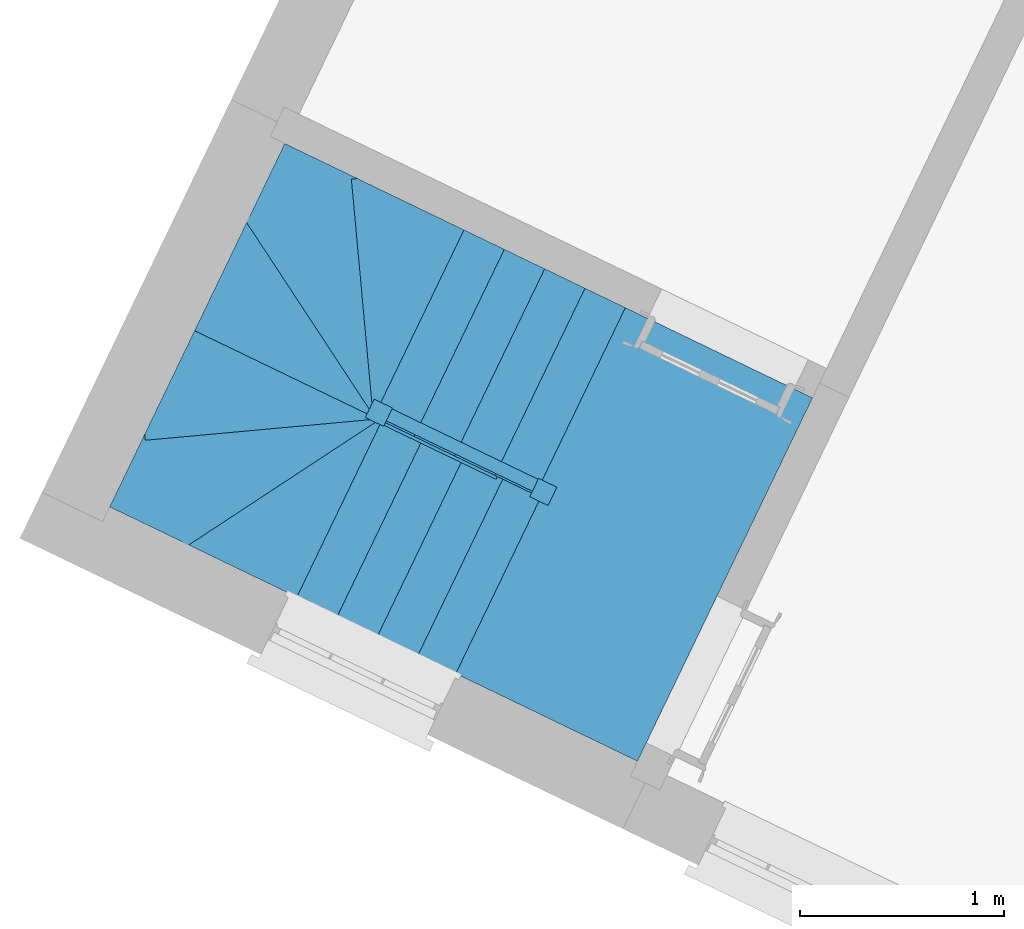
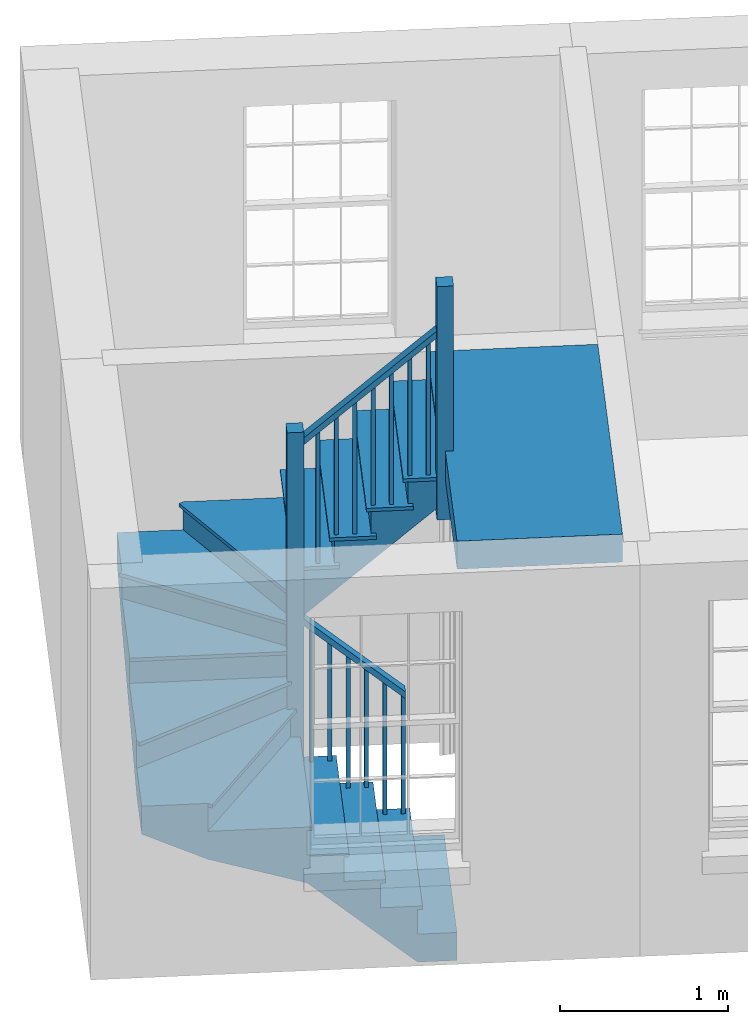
# One storey, part 3 of 3: 1 stair.
"""IFC4 building model written with IfcOpenShell, lengths in metres."""

import ifcopenshell
import ifcopenshell.guid

model = None  # the IFC model being written
_history = None  # IfcOwnerHistory: only IFC2X3 demands one
_inside = {}  # id of a spatial element -> (the spatial element, [elements in it])
_under = {}  # id of a project, library or spatial element -> (it, [spatial elements below it])
_declared = {}  # id of a project -> (the project, [libraries it declares])
_typed = {}  # id of a type object -> (the type object, [elements of that type])
_made_of = {}  # id of a material, layer set ... -> (it, [elements and type objects made of it])


def new_model(schema):
    """Start an empty IFC model of exactly this schema.

    Asked for "IFC4X3", IfcOpenShell would pick the latest addendum, in which some entities
    have other attributes; the version numbers below select the first issue.
    IFC2X3 requires an IfcOwnerHistory on every rooted entity: one is made here for all.
    """
    global model, _history
    if schema == "IFC4X3":
        model = ifcopenshell.file(schema_version=(4, 3, 0, 0))
    else:
        model = ifcopenshell.file(schema=schema)
    _inside.clear()
    _under.clear()
    _declared.clear()
    _typed.clear()
    _made_of.clear()
    _history = None
    if model.schema == "IFC2X3":
        org = make("IfcOrganization", Name="unknown")
        user = make(
            "IfcPersonAndOrganization",
            ThePerson=make("IfcPerson", FamilyName="unknown"),
            TheOrganization=org,
        )
        app = make(
            "IfcApplication",
            ApplicationDeveloper=org,
            Version="unknown",
            ApplicationFullName="unknown",
            ApplicationIdentifier="unknown",
        )
        _history = make(
            "IfcOwnerHistory",
            OwningUser=user,
            OwningApplication=app,
            ChangeAction="ADDED",
            CreationDate=0,
        )
    return model


def make(cls, **values):
    """One entity of the class cls with the attributes given. An attribute that is None is left unset."""
    return model.create_entity(
        cls, **{name: value for name, value in values.items() if value is not None}
    )


def rooted(cls, **values):
    """An entity with a GlobalId (a new one), such as an element, a storey or a relation."""
    return make(cls, GlobalId=ifcopenshell.guid.new(), OwnerHistory=_history, **values)


def si_unit(unit_type, name, prefix=None):
    """IfcSIUnit, for example si_unit("LENGTHUNIT", "METRE", prefix="MILLI")."""
    return make("IfcSIUnit", UnitType=unit_type, Prefix=prefix, Name=name)


def assignment(units):
    """IfcUnitAssignment: the units of a project."""
    return None if units is None else make("IfcUnitAssignment", Units=units)


def point(xyz):
    """IfcCartesianPoint."""
    return None if xyz is None else make("IfcCartesianPoint", Coordinates=xyz)


def direction(xyz):
    """IfcDirection."""
    return None if xyz is None else make("IfcDirection", DirectionRatios=xyz)


def frame(location, z_axis=None, x_axis=None):
    """IfcAxis2Placement3D, a coordinate frame: its origin and axes. An axis left out is left unset."""
    return make(
        "IfcAxis2Placement3D",
        Location=point(location),
        Axis=direction(z_axis),
        RefDirection=direction(x_axis),
    )


def origin():
    """The frame at (0, 0, 0) with its axes left unset."""
    return frame((0.0, 0.0, 0.0))


def origin_with_axes():
    """The frame at (0, 0, 0) with the z axis (0, 0, 1) and the x axis (1, 0, 0) written out."""
    return frame((0.0, 0.0, 0.0), z_axis=(0.0, 0.0, 1.0), x_axis=(1.0, 0.0, 0.0))


def place(relative_to, where):
    """IfcLocalPlacement: puts the frame where relative to a parent placement (None: the world)."""
    return make(
        "IfcLocalPlacement", PlacementRelTo=relative_to, RelativePlacement=where
    )


def context(
    kind, dimensions, precision=None, world=None, true_north=None, identifier=None
):
    """IfcGeometricRepresentationContext, for example the 3D "Model" context."""
    return make(
        "IfcGeometricRepresentationContext",
        ContextIdentifier=identifier,
        ContextType=kind,
        CoordinateSpaceDimension=dimensions,
        Precision=precision,
        WorldCoordinateSystem=world,
        TrueNorth=true_north,
    )


def subcontext(parent, identifier, kind, view, scale=None):
    """IfcGeometricRepresentationSubContext, for example "Body" below "Model"."""
    return make(
        "IfcGeometricRepresentationSubContext",
        ContextIdentifier=identifier,
        ContextType=kind,
        ParentContext=parent,
        TargetScale=scale,
        TargetView=view,
    )


def project(units=None, contexts=None):
    """IfcProject with its units and contexts."""
    return rooted(
        "IfcProject",
        Name="project",
        RepresentationContexts=contexts,
        UnitsInContext=assignment(units),
    )


def spatial(cls, under=None, at=None, **own):
    """A site, building, storey or space (cls), placed at a placement, below another one or the project."""
    s = rooted(cls, ObjectPlacement=at, **own)
    if under is not None:
        _under.setdefault(under.id(), (under, []))[1].append(s)
    return s


def faces_of(points, faces, orient=None, outer=None):
    """IfcFace entities. A face is a list of loops; a loop is a list of indices into points, from 0.

    orient and outer hold one flag for each loop. By default every Orientation is true, the
    first loop of a face is its IfcFaceOuterBound and the others are IfcFaceBound.
    """
    made = []
    for i, loops in enumerate(faces):
        bounds = []
        for j, loop in enumerate(loops):
            is_outer = j == 0 if outer is None else outer[i][j]
            bounds.append(
                make(
                    "IfcFaceOuterBound" if is_outer else "IfcFaceBound",
                    Bound=make("IfcPolyLoop", Polygon=[points[k] for k in loop]),
                    Orientation=True if orient is None else orient[i][j],
                )
            )
        made.append(make("IfcFace", Bounds=bounds))
    return made


def faceted_brep(points, faces, orient=None, outer=None, voids=None):
    """IfcFacetedBrep: a solid bounded by flat faces; with voids (closed shells), ...WithVoids."""
    shared = [point(p) for p in points]
    hull = make("IfcClosedShell", CfsFaces=faces_of(shared, faces, orient, outer))
    if voids is None:
        return make("IfcFacetedBrep", Outer=hull)
    return make(
        "IfcFacetedBrepWithVoids",
        Outer=hull,
        Voids=[
            make(cls, CfsFaces=faces_of(shared, fs, o, b)) for cls, fs, o, b in voids
        ],
    )


def shape(context_of_items, identifier, shape_type, items):
    """IfcShapeRepresentation: the items that make up one representation, for example the "Body"."""
    return make(
        "IfcShapeRepresentation",
        ContextOfItems=context_of_items,
        RepresentationIdentifier=identifier,
        RepresentationType=shape_type,
        Items=items,
    )


def made_of(thing, what):
    """Note that an element or type object is made of a material, layer set ...; save() writes the relation."""
    if what is not None:
        _made_of.setdefault(what.id(), (what, []))[1].append(thing)
    return thing


def element(
    cls,
    number,
    at=None,
    inside=None,
    cuts=None,
    type_object=None,
    material=None,
    context=None,
    identifier="Body",
    shape_type=None,
    held_by="IfcProductDefinitionShape",
    body=None,
    shapes=None,
    **own,
):
    """One element of the class cls, such as IfcWall. Its Tag is "e" and its number.

    at: its placement. inside: the storey or other place that contains it. cuts: it is an
    opening in that element (IfcRelVoidsElement). A single representation is given by context,
    identifier, shape_type and body (its items); several are given by shapes. held_by: the class
    of the entity that holds the representations. save() writes the other relations.
    """
    e = rooted(cls, Tag="e%d" % number, ObjectPlacement=at, **own)
    if body is not None:
        shapes = [shape(context, identifier, shape_type, body)]
    if shapes is not None:
        e.Representation = make(held_by, Representations=shapes)
    if inside is not None:
        _inside.setdefault(inside.id(), (inside, []))[1].append(e)
    if cuts is not None:
        rooted(
            "IfcRelVoidsElement", RelatingBuildingElement=cuts, RelatedOpeningElement=e
        )
    if type_object is not None:
        _typed.setdefault(type_object.id(), (type_object, []))[1].append(e)
    return made_of(e, material)


def aggregate(whole, parts):
    """IfcRelAggregates: a whole, such as a stair, and the parts it consists of."""
    return rooted("IfcRelAggregates", RelatingObject=whole, RelatedObjects=parts)


def save(model, path):
    """Write the relations noted so far, then the file.

    IfcRelAggregates (storeys below a building ...), IfcRelContainedInSpatialStructure (elements
    in a storey), IfcRelDefinesByType, IfcRelAssociatesMaterial and IfcRelDeclares: one each for
    every whole, place, type object, material and project.
    """
    for whole, parts in _under.values():
        aggregate(whole, parts)
    for where, things in _inside.values():
        rooted(
            "IfcRelContainedInSpatialStructure",
            RelatedElements=things,
            RelatingStructure=where,
        )
    for kind, things in _typed.values():
        rooted("IfcRelDefinesByType", RelatedObjects=things, RelatingType=kind)
    for what, things in _made_of.values():
        rooted("IfcRelAssociatesMaterial", RelatedObjects=things, RelatingMaterial=what)
    for by, libraries in _declared.values():
        rooted("IfcRelDeclares", RelatingContext=by, RelatedDefinitions=libraries)
    model.write(path)


model = new_model("IFC4")

# Units and contexts
model_context = context("Model", 3, world=origin_with_axes())
body_context = subcontext(model_context, "Body", "Model", "MODEL_VIEW")
ifc_project = project(units=[si_unit("PLANEANGLEUNIT", "RADIAN"), si_unit("MASSUNIT", "GRAM", prefix="KILO"), si_unit("FORCEUNIT", "NEWTON", prefix="KILO"), si_unit("LENGTHUNIT", "METRE"), si_unit("AREAUNIT", "SQUARE_METRE"), si_unit("VOLUMEUNIT", "CUBIC_METRE")], contexts=[model_context, model_context])

# Sites, building, storey
site_1_placement = place(None, origin_with_axes())
site_1 = spatial("IfcSite", under=ifc_project, at=site_1_placement, Name="Tamar")
site_2_placement = place(site_1_placement, origin_with_axes())
site_2 = spatial("IfcSite", under=site_1, at=site_2_placement, Name="Site plot-2", CompositionType="ELEMENT")
building_placement = place(None, origin_with_axes())
building = spatial("IfcBuilding", under=site_2, at=building_placement, Name="Building plot-2", CompositionType="ELEMENT")
storey_placement = place(None, frame((0.0, 0.0, 28.7), z_axis=(0.0, 0.0, 1.0), x_axis=(1.0, 0.0, 0.0)))
storey = spatial("IfcBuildingStorey", under=building, at=storey_placement, Name="plot-2 1", CompositionType="ELEMENT", Elevation=28.7)

# Stair
stair_placement = place(None, origin())
element("IfcStair", 1, at=stair_placement, inside=storey, Name="Stair", PredefinedType="NOTDEFINED", context=body_context, shape_type="Brep", body=[
    faceted_brep([(229.954053, 291.419393, 31.346429), (230.38407, 292.311741, 31.346429), (230.185881, 292.407247, 31.346429), (229.755864, 291.514899, 31.346429), (229.755864, 291.514899, 30.939286), (230.185881, 292.407247, 30.939286), (230.38407, 292.311741, 31.142857), (229.954053, 291.419393, 31.142857)], [[[0, 1, 2, 3]], [[4, 5, 6, 7]], [[7, 6, 1, 0]], [[1, 6, 5, 2]], [[5, 4, 3, 2]], [[3, 4, 7, 0]]]),
    faceted_brep([(230.185881, 292.407247, 31.321429), (230.158856, 292.420271, 31.321429), (230.185881, 292.407247, 31.346429), (230.411095, 292.298718, 31.321429), (230.38407, 292.311741, 31.321429), (230.38407, 292.311741, 31.346429), (230.158856, 292.420271, 31.346429), (230.411095, 292.298718, 31.346429), (229.715815, 291.500897, 31.346429), (229.755864, 291.514899, 31.346429), (229.755864, 291.514899, 31.321429), (229.715815, 291.500897, 31.321429), (229.968055, 291.379344, 31.346429), (229.954053, 291.419393, 31.346429), (229.954053, 291.419393, 31.321429), (229.968055, 291.379344, 31.321429)], [[[0, 1, 2]], [[3, 4, 5]], [[1, 6, 2]], [[7, 3, 5]], [[2, 6, 8, 9]], [[0, 2, 9, 10]], [[1, 0, 10, 11]], [[6, 1, 11, 8]], [[9, 8, 12, 13]], [[10, 9, 13, 14]], [[11, 10, 14, 15]], [[8, 11, 15, 12]], [[13, 12, 7, 5]], [[14, 13, 5, 4]], [[15, 14, 4, 3]], [[12, 15, 3, 7]]]),
    faceted_brep([(229.755864, 291.514899, 32.246429), (229.778386, 291.504046, 32.246429), (229.789239, 291.526568, 32.246429), (229.766717, 291.537421, 32.246429), (229.766717, 291.537421, 31.346429), (229.789239, 291.526568, 31.346429), (229.778386, 291.504046, 31.346429), (229.755864, 291.514899, 31.346429)], [[[0, 1, 2, 3]], [[4, 5, 6, 7]], [[7, 6, 1, 0]], [[6, 5, 2, 1]], [[5, 4, 3, 2]], [[4, 7, 0, 3]]]),
    faceted_brep([(229.854958, 291.467146, 32.348214), (229.87748, 291.456293, 32.348214), (229.888333, 291.478815, 32.348214), (229.865811, 291.489668, 32.348214), (229.865811, 291.489668, 31.346429), (229.888333, 291.478815, 31.346429), (229.87748, 291.456293, 31.346429), (229.854958, 291.467146, 31.346429)], [[[0, 1, 2, 3]], [[4, 5, 6, 7]], [[7, 6, 1, 0]], [[6, 5, 2, 1]], [[5, 4, 3, 2]], [[4, 7, 0, 3]]]),
    faceted_brep([(229.7754, 291.555438, 32.196429), (229.747182, 291.496882, 32.196429), (229.747182, 291.496882, 32.246429), (229.7754, 291.555438, 32.246429), (229.94537, 291.401376, 32.4), (229.973588, 291.459932, 32.4), (229.973588, 291.459932, 32.45), (229.94537, 291.401376, 32.45)], [[[0, 1, 2, 3]], [[4, 5, 6, 7]], [[0, 5, 4, 1]], [[3, 2, 7, 6]], [[0, 3, 6, 5]], [[2, 1, 4, 7]]]),
    faceted_brep([(229.755864, 291.514899, 31.142857), (230.185881, 292.407247, 31.142857), (229.987693, 292.502753, 31.142857), (229.557676, 291.610405, 31.142857), (229.557676, 291.610405, 30.735714), (229.987693, 292.502753, 30.735714), (230.185881, 292.407247, 30.939286), (229.755864, 291.514899, 30.939286)], [[[0, 1, 2, 3]], [[4, 5, 6, 7]], [[7, 6, 1, 0]], [[1, 6, 5, 2]], [[5, 4, 3, 2]], [[3, 4, 7, 0]]]),
    faceted_brep([(229.960667, 292.515776, 31.117857), (229.960667, 292.515776, 31.142857), (229.987693, 292.502753, 31.117857), (230.212907, 292.394224, 31.142857), (230.212907, 292.394224, 31.117857), (230.185881, 292.407247, 31.117857), (229.987693, 292.502753, 31.142857), (230.185881, 292.407247, 31.142857), (229.517627, 291.596403, 31.142857), (229.557676, 291.610405, 31.142857), (229.557676, 291.610405, 31.117857), (229.517627, 291.596403, 31.117857), (229.769866, 291.47485, 31.142857), (229.755864, 291.514899, 31.142857), (229.755864, 291.514899, 31.117857), (229.769866, 291.47485, 31.117857)], [[[0, 1, 2]], [[3, 4, 5]], [[2, 1, 6]], [[3, 5, 7]], [[6, 1, 8, 9]], [[2, 6, 9, 10]], [[0, 2, 10, 11]], [[1, 0, 11, 8]], [[9, 8, 12, 13]], [[10, 9, 13, 14]], [[11, 10, 14, 15]], [[8, 11, 15, 12]], [[13, 12, 3, 7]], [[14, 13, 7, 5]], [[15, 14, 5, 4]], [[12, 15, 4, 3]]]),
    faceted_brep([(229.557676, 291.610405, 32.042857), (229.580197, 291.599552, 32.042857), (229.59105, 291.622074, 32.042857), (229.568529, 291.632927, 32.042857), (229.568529, 291.632927, 31.142857), (229.59105, 291.622074, 31.142857), (229.580197, 291.599552, 31.142857), (229.557676, 291.610405, 31.142857)], [[[0, 1, 2, 3]], [[4, 5, 6, 7]], [[7, 6, 1, 0]], [[6, 5, 2, 1]], [[5, 4, 3, 2]], [[4, 7, 0, 3]]]),
    faceted_brep([(229.65677, 291.562652, 32.144643), (229.679291, 291.551799, 32.144643), (229.690144, 291.574321, 32.144643), (229.667623, 291.585174, 32.144643), (229.667623, 291.585174, 31.142857), (229.690144, 291.574321, 31.142857), (229.679291, 291.551799, 31.142857), (229.65677, 291.562652, 31.142857)], [[[0, 1, 2, 3]], [[4, 5, 6, 7]], [[7, 6, 1, 0]], [[6, 5, 2, 1]], [[5, 4, 3, 2]], [[4, 7, 0, 3]]]),
    faceted_brep([(229.577211, 291.650944, 31.992857), (229.548993, 291.592388, 31.992857), (229.548993, 291.592388, 32.042857), (229.577211, 291.650944, 32.042857), (229.747182, 291.496882, 32.196429), (229.7754, 291.555438, 32.196429), (229.7754, 291.555438, 32.246429), (229.747182, 291.496882, 32.246429)], [[[0, 1, 2, 3]], [[4, 5, 6, 7]], [[0, 5, 4, 1]], [[3, 2, 7, 6]], [[0, 3, 6, 5]], [[2, 1, 4, 7]]]),
    faceted_brep([(229.557676, 291.610405, 30.939286), (229.987693, 292.502753, 30.939286), (229.789505, 292.598259, 30.939286), (229.359487, 291.705911, 30.939286), (229.359487, 291.705911, 30.532143), (229.789505, 292.598259, 30.532143), (229.987693, 292.502753, 30.735714), (229.557676, 291.610405, 30.735714)], [[[0, 1, 2, 3]], [[4, 5, 6, 7]], [[7, 6, 1, 0]], [[1, 6, 5, 2]], [[5, 4, 3, 2]], [[3, 4, 7, 0]]]),
    faceted_brep([(229.762479, 292.611282, 30.914286), (229.762479, 292.611282, 30.939286), (229.789505, 292.598259, 30.914286), (230.014719, 292.489729, 30.939286), (230.014719, 292.489729, 30.914286), (229.987693, 292.502753, 30.914286), (229.789505, 292.598259, 30.939286), (229.987693, 292.502753, 30.939286), (229.319438, 291.691909, 30.939286), (229.359487, 291.705911, 30.939286), (229.359487, 291.705911, 30.914286), (229.319438, 291.691909, 30.914286), (229.571678, 291.570356, 30.939286), (229.557676, 291.610405, 30.939286), (229.557676, 291.610405, 30.914286), (229.571678, 291.570356, 30.914286)], [[[0, 1, 2]], [[3, 4, 5]], [[2, 1, 6]], [[3, 5, 7]], [[6, 1, 8, 9]], [[2, 6, 9, 10]], [[0, 2, 10, 11]], [[1, 0, 11, 8]], [[9, 8, 12, 13]], [[10, 9, 13, 14]], [[11, 10, 14, 15]], [[8, 11, 15, 12]], [[13, 12, 3, 7]], [[14, 13, 7, 5]], [[15, 14, 5, 4]], [[12, 15, 4, 3]]]),
    faceted_brep([(229.359487, 291.705911, 31.839286), (229.382009, 291.695058, 31.839286), (229.392862, 291.717579, 31.839286), (229.37034, 291.728432, 31.839286), (229.37034, 291.728432, 30.939286), (229.392862, 291.717579, 30.939286), (229.382009, 291.695058, 30.939286), (229.359487, 291.705911, 30.939286)], [[[0, 1, 2, 3]], [[4, 5, 6, 7]], [[7, 6, 1, 0]], [[6, 5, 2, 1]], [[5, 4, 3, 2]], [[4, 7, 0, 3]]]),
    faceted_brep([(229.458582, 291.658158, 31.941071), (229.481103, 291.647305, 31.941071), (229.491956, 291.669827, 31.941071), (229.469435, 291.680679, 31.941071), (229.469435, 291.680679, 30.939286), (229.491956, 291.669827, 30.939286), (229.481103, 291.647305, 30.939286), (229.458582, 291.658158, 30.939286)], [[[0, 1, 2, 3]], [[4, 5, 6, 7]], [[7, 6, 1, 0]], [[6, 5, 2, 1]], [[5, 4, 3, 2]], [[4, 7, 0, 3]]]),
    faceted_brep([(229.379023, 291.746449, 31.789286), (229.350805, 291.687894, 31.789286), (229.350805, 291.687894, 31.839286), (229.379023, 291.746449, 31.839286), (229.548993, 291.592388, 31.992857), (229.577211, 291.650944, 31.992857), (229.577211, 291.650944, 32.042857), (229.548993, 291.592388, 32.042857)], [[[0, 1, 2, 3]], [[4, 5, 6, 7]], [[0, 5, 4, 1]], [[3, 2, 7, 6]], [[0, 3, 6, 5]], [[2, 1, 4, 7]]]),
    faceted_brep([(229.359487, 291.705911, 30.735714), (229.789505, 292.598259, 30.735714), (229.591316, 292.693765, 30.735714), (229.161299, 291.801417, 30.735714), (229.161299, 291.801417, 30.328571), (229.591316, 292.693765, 30.328571), (229.789505, 292.598259, 30.532143), (229.359487, 291.705911, 30.532143)], [[[0, 1, 2, 3]], [[4, 5, 6, 7]], [[7, 6, 1, 0]], [[1, 6, 5, 2]], [[5, 4, 3, 2]], [[3, 4, 7, 0]]]),
    faceted_brep([(229.564291, 292.706788, 30.710714), (229.564291, 292.706788, 30.735714), (229.591316, 292.693765, 30.710714), (229.81653, 292.585235, 30.735714), (229.81653, 292.585235, 30.710714), (229.789505, 292.598259, 30.710714), (229.591316, 292.693765, 30.735714), (229.789505, 292.598259, 30.735714), (229.12125, 291.787415, 30.735714), (229.161299, 291.801417, 30.735714), (229.161299, 291.801417, 30.710714), (229.12125, 291.787415, 30.710714), (229.37349, 291.665862, 30.735714), (229.359487, 291.705911, 30.735714), (229.359487, 291.705911, 30.710714), (229.37349, 291.665862, 30.710714)], [[[0, 1, 2]], [[3, 4, 5]], [[2, 1, 6]], [[3, 5, 7]], [[6, 1, 8, 9]], [[2, 6, 9, 10]], [[0, 2, 10, 11]], [[1, 0, 11, 8]], [[9, 8, 12, 13]], [[10, 9, 13, 14]], [[11, 10, 14, 15]], [[8, 11, 15, 12]], [[13, 12, 3, 7]], [[14, 13, 7, 5]], [[15, 14, 5, 4]], [[12, 15, 4, 3]]]),
    faceted_brep([(229.161299, 291.801417, 31.635714), (229.18382, 291.790564, 31.635714), (229.194673, 291.813085, 31.635714), (229.172152, 291.823938, 31.635714), (229.172152, 291.823938, 30.735714), (229.194673, 291.813085, 30.735714), (229.18382, 291.790564, 30.735714), (229.161299, 291.801417, 30.735714)], [[[0, 1, 2, 3]], [[4, 5, 6, 7]], [[7, 6, 1, 0]], [[6, 5, 2, 1]], [[5, 4, 3, 2]], [[4, 7, 0, 3]]]),
    faceted_brep([(229.260393, 291.753664, 31.7375), (229.282915, 291.742811, 31.7375), (229.293768, 291.765332, 31.7375), (229.271246, 291.776185, 31.7375), (229.271246, 291.776185, 30.735714), (229.293768, 291.765332, 30.735714), (229.282915, 291.742811, 30.735714), (229.260393, 291.753664, 30.735714)], [[[0, 1, 2, 3]], [[4, 5, 6, 7]], [[7, 6, 1, 0]], [[6, 5, 2, 1]], [[5, 4, 3, 2]], [[4, 7, 0, 3]]]),
    faceted_brep([(229.180834, 291.841955, 31.585714), (229.152617, 291.7834, 31.585714), (229.152617, 291.7834, 31.635714), (229.180834, 291.841955, 31.635714), (229.350805, 291.687894, 31.789286), (229.379023, 291.746449, 31.789286), (229.379023, 291.746449, 31.839286), (229.350805, 291.687894, 31.839286)], [[[0, 1, 2, 3]], [[4, 5, 6, 7]], [[0, 5, 4, 1]], [[3, 2, 7, 6]], [[0, 3, 6, 5]], [[2, 1, 4, 7]]]),
    faceted_brep([(229.161299, 291.801417, 30.532143), (229.591316, 292.693765, 30.532143), (229.576412, 292.700947, 30.532143), (229.146395, 291.808599, 30.532143), (229.146395, 291.808599, 30.328571), (229.576412, 292.700947, 30.328571), (229.591316, 292.693765, 30.328571), (229.161299, 291.801417, 30.328571)], [[[0, 1, 2, 3]], [[4, 5, 6, 7]], [[7, 6, 1, 0]], [[6, 5, 2, 1]], [[5, 4, 3, 2]], [[4, 7, 0, 3]]]),
    faceted_brep([(229.133372, 291.781573, 30.507143), (229.133372, 291.781573, 30.532143), (229.146395, 291.808599, 30.507143), (229.148276, 291.774391, 30.532143), (229.148276, 291.774391, 30.507143), (229.161299, 291.801417, 30.507143), (229.146395, 291.808599, 30.532143), (229.161299, 291.801417, 30.532143)], [[[0, 1, 2]], [[3, 4, 5]], [[2, 1, 6]], [[3, 5, 7]], [[6, 1, 3, 7]], [[2, 6, 7, 5]], [[0, 2, 5, 4]], [[1, 0, 4, 3]]]),
    faceted_brep([(229.079646, 291.785262, 31.732143), (229.169732, 291.74185, 31.732143), (229.213144, 291.831936, 31.732143), (229.123058, 291.875348, 31.732143), (229.123058, 291.875348, 30.532143), (229.213144, 291.831936, 30.532143), (229.169732, 291.74185, 30.532143), (229.079646, 291.785262, 30.532143)], [[[0, 1, 2, 3]], [[4, 5, 6, 7]], [[7, 6, 1, 0]], [[6, 5, 2, 1]], [[5, 4, 3, 2]], [[4, 7, 0, 3]]]),
    faceted_brep([(229.576412, 292.700947, 30.532143), (229.041004, 292.958957, 30.532143), (229.146395, 291.808599, 30.532143), (229.146395, 291.808599, 30.125), (229.041004, 292.958957, 30.125), (229.576412, 292.700947, 30.328571)], [[[0, 1, 2]], [[3, 4, 5]], [[0, 5, 4, 1]], [[4, 3, 2, 1]], [[2, 3, 5, 0]]]),
    faceted_brep([(229.041004, 292.958957, 30.507143), (229.011129, 292.95622, 30.507143), (229.041004, 292.958957, 30.532143), (229.11652, 291.805862, 30.507143), (229.146395, 291.808599, 30.507143), (229.146395, 291.808599, 30.532143), (229.011129, 292.95622, 30.532143), (229.11652, 291.805862, 30.532143)], [[[0, 1, 2]], [[3, 4, 5]], [[1, 6, 2]], [[7, 3, 5]], [[2, 6, 7, 5]], [[0, 2, 5, 4]], [[1, 0, 4, 3]], [[6, 1, 3, 7]]]),
    faceted_brep([(229.041004, 292.958957, 30.328571), (228.684064, 293.130964, 30.328571), (228.512058, 292.774025, 30.328571), (229.146395, 291.808599, 30.328571), (229.146395, 291.808599, 29.921429), (228.512058, 292.774025, 29.921429), (228.684064, 293.130964, 30.125), (229.041004, 292.958957, 30.125)], [[[0, 1, 2, 3]], [[4, 5, 6, 7]], [[7, 6, 1, 0]], [[1, 6, 5, 2]], [[5, 4, 3, 2]], [[3, 4, 7, 0]]]),
    faceted_brep([(228.486985, 292.757551, 30.303571), (228.486985, 292.757551, 30.328571), (228.512058, 292.774025, 30.303571), (229.121323, 291.792125, 30.328571), (229.121323, 291.792125, 30.303571), (229.146395, 291.808599, 30.303571), (228.512058, 292.774025, 30.328571), (229.146395, 291.808599, 30.328571)], [[[0, 1, 2]], [[3, 4, 5]], [[2, 1, 6]], [[3, 5, 7]], [[6, 1, 3, 7]], [[2, 6, 7, 5]], [[0, 2, 5, 4]], [[1, 0, 4, 3]]]),
    faceted_brep([(228.512058, 292.774025, 30.125), (228.254047, 292.238616, 30.125), (229.146395, 291.808599, 30.125), (229.146395, 291.808599, 29.717857), (228.254047, 292.238616, 29.717857), (228.512058, 292.774025, 29.921429)], [[[0, 1, 2]], [[3, 4, 5]], [[0, 5, 4, 1]], [[4, 3, 2, 1]], [[2, 3, 5, 0]]]),
    faceted_brep([(228.241024, 292.21159, 30.1), (228.241024, 292.21159, 30.125), (228.254047, 292.238616, 30.1), (229.133372, 291.781573, 30.125), (229.133372, 291.781573, 30.1), (229.146395, 291.808599, 30.1), (228.254047, 292.238616, 30.125), (229.146395, 291.808599, 30.125)], [[[0, 1, 2]], [[3, 4, 5]], [[2, 1, 6]], [[3, 5, 7]], [[6, 1, 3, 7]], [[2, 6, 7, 5]], [[0, 2, 5, 4]], [[1, 0, 4, 3]]]),
    faceted_brep([(229.079646, 291.785262, 30.532143), (229.169732, 291.74185, 30.532143), (229.213144, 291.831936, 30.532143), (229.123058, 291.875348, 30.532143), (229.123058, 291.875348, 29.625), (229.213144, 291.831936, 29.625), (229.169732, 291.74185, 29.625), (229.079646, 291.785262, 29.625)], [[[0, 1, 2, 3]], [[4, 5, 6, 7]], [[7, 6, 1, 0]], [[6, 5, 2, 1]], [[5, 4, 3, 2]], [[4, 7, 0, 3]]]),
    faceted_brep([(229.146395, 291.808599, 29.717857), (228.254047, 292.238616, 29.717857), (228.254047, 292.238616, 29.921429), (229.146395, 291.808599, 29.921429)], [[[0, 1, 2, 3]], [[1, 0, 3, 2]]]),
    faceted_brep([(229.146395, 291.808599, 29.896429), (229.176395, 291.808599, 29.896429), (229.146395, 291.808599, 29.921429), (229.176395, 291.808599, 29.921429)], [[[0, 1, 2]], [[1, 0, 2]], [[1, 3, 2]], [[3, 1, 2]]]),
    faceted_brep([(229.169732, 291.74185, 31.121429), (229.213144, 291.831936, 31.121429), (229.123058, 291.875348, 31.121429), (229.079646, 291.785262, 31.121429), (229.079646, 291.785262, 29.921429), (229.123058, 291.875348, 29.921429), (229.213144, 291.831936, 29.921429), (229.169732, 291.74185, 29.921429)], [[[0, 1, 2, 3]], [[4, 5, 6, 7]], [[7, 6, 1, 0]], [[6, 5, 2, 1]], [[5, 4, 3, 2]], [[4, 7, 0, 3]]]),
    faceted_brep([(228.254047, 292.238616, 29.921429), (227.996037, 291.703207, 29.921429), (229.146395, 291.808599, 29.921429), (229.146395, 291.808599, 29.514286), (227.996037, 291.703207, 29.514286), (228.254047, 292.238616, 29.717857)], [[[0, 1, 2]], [[3, 4, 5]], [[0, 5, 4, 1]], [[4, 3, 2, 1]], [[2, 3, 5, 0]]]),
    faceted_brep([(227.996037, 291.703207, 29.896429), (227.998774, 291.673333, 29.896429), (227.996037, 291.703207, 29.921429), (229.149132, 291.778724, 29.896429), (229.146395, 291.808599, 29.896429), (229.146395, 291.808599, 29.921429), (227.998774, 291.673333, 29.921429), (229.149132, 291.778724, 29.921429)], [[[0, 1, 2]], [[3, 4, 5]], [[1, 6, 2]], [[7, 3, 5]], [[2, 6, 7, 5]], [[0, 2, 5, 4]], [[1, 0, 4, 3]], [[6, 1, 3, 7]]]),
    faceted_brep([(227.996037, 291.703207, 29.717857), (227.82403, 291.346268, 29.717857), (228.180969, 291.174261, 29.717857), (229.146395, 291.808599, 29.717857), (229.146395, 291.808599, 29.310714), (228.180969, 291.174261, 29.310714), (227.82403, 291.346268, 29.514286), (227.996037, 291.703207, 29.514286)], [[[0, 1, 2, 3]], [[4, 5, 6, 7]], [[7, 6, 1, 0]], [[1, 6, 5, 2]], [[5, 4, 3, 2]], [[3, 4, 7, 0]]]),
    faceted_brep([(228.180969, 291.174261, 29.692857), (228.197443, 291.149189, 29.692857), (228.180969, 291.174261, 29.717857), (229.162869, 291.783527, 29.692857), (229.146395, 291.808599, 29.692857), (229.146395, 291.808599, 29.717857), (228.197443, 291.149189, 29.717857), (229.162869, 291.783527, 29.717857)], [[[0, 1, 2]], [[3, 4, 5]], [[1, 6, 2]], [[7, 3, 5]], [[2, 6, 7, 5]], [[0, 2, 5, 4]], [[1, 0, 4, 3]], [[6, 1, 3, 7]]]),
    faceted_brep([(228.180969, 291.174261, 29.514286), (228.716378, 290.916251, 29.514286), (229.146395, 291.808599, 29.514286), (229.146395, 291.808599, 29.107143), (228.716378, 290.916251, 29.107143), (228.180969, 291.174261, 29.310714)], [[[0, 1, 2]], [[3, 4, 5]], [[0, 5, 4, 1]], [[4, 3, 2, 1]], [[2, 3, 5, 0]]]),
    faceted_brep([(228.743404, 290.903228, 29.489286), (228.743404, 290.903228, 29.514286), (228.716378, 290.916251, 29.489286), (229.173421, 291.795575, 29.514286), (229.173421, 291.795575, 29.489286), (229.146395, 291.808599, 29.489286), (228.716378, 290.916251, 29.514286), (229.146395, 291.808599, 29.514286)], [[[0, 1, 2]], [[3, 4, 5]], [[2, 1, 6]], [[3, 5, 7]], [[6, 1, 3, 7]], [[2, 6, 7, 5]], [[0, 2, 5, 4]], [[1, 0, 4, 3]]]),
    faceted_brep([(229.169732, 291.74185, 29.921429), (229.213144, 291.831936, 29.921429), (229.123058, 291.875348, 29.921429), (229.079646, 291.785262, 29.921429), (229.079646, 291.785262, 29.014286), (229.123058, 291.875348, 29.014286), (229.213144, 291.831936, 29.014286), (229.169732, 291.74185, 29.014286)], [[[0, 1, 2, 3]], [[4, 5, 6, 7]], [[7, 6, 1, 0]], [[6, 5, 2, 1]], [[5, 4, 3, 2]], [[4, 7, 0, 3]]]),
    faceted_brep([(229.146395, 291.808599, 29.310714), (228.716378, 290.916251, 29.310714), (228.914566, 290.820745, 29.310714), (229.344583, 291.713093, 29.310714), (229.344583, 291.713093, 28.903571), (228.914566, 290.820745, 28.903571), (228.716378, 290.916251, 29.107143), (229.146395, 291.808599, 29.107143)], [[[0, 1, 2, 3]], [[4, 5, 6, 7]], [[7, 6, 1, 0]], [[1, 6, 5, 2]], [[5, 4, 3, 2]], [[3, 4, 7, 0]]]),
    faceted_brep([(228.941592, 290.807722, 29.285714), (228.941592, 290.807722, 29.310714), (228.914566, 290.820745, 29.285714), (228.689352, 290.929275, 29.310714), (228.689352, 290.929275, 29.285714), (228.716378, 290.916251, 29.285714), (228.914566, 290.820745, 29.310714), (228.716378, 290.916251, 29.310714), (229.384633, 291.727095, 29.310714), (229.344583, 291.713093, 29.310714), (229.344583, 291.713093, 29.285714), (229.384633, 291.727095, 29.285714), (229.132393, 291.848648, 29.310714), (229.146395, 291.808599, 29.310714), (229.146395, 291.808599, 29.285714), (229.132393, 291.848648, 29.285714)], [[[0, 1, 2]], [[3, 4, 5]], [[2, 1, 6]], [[3, 5, 7]], [[6, 1, 8, 9]], [[2, 6, 9, 10]], [[0, 2, 10, 11]], [[1, 0, 11, 8]], [[9, 8, 12, 13]], [[10, 9, 13, 14]], [[11, 10, 14, 15]], [[8, 11, 15, 12]], [[13, 12, 3, 7]], [[14, 13, 7, 5]], [[15, 14, 5, 4]], [[12, 15, 4, 3]]]),
    faceted_brep([(229.344583, 291.713093, 30.210714), (229.322062, 291.723946, 30.210714), (229.311209, 291.701425, 30.210714), (229.333731, 291.690572, 30.210714), (229.333731, 291.690572, 29.310714), (229.311209, 291.701425, 29.310714), (229.322062, 291.723946, 29.310714), (229.344583, 291.713093, 29.310714)], [[[0, 1, 2, 3]], [[4, 5, 6, 7]], [[7, 6, 1, 0]], [[6, 5, 2, 1]], [[5, 4, 3, 2]], [[4, 7, 0, 3]]]),
    faceted_brep([(229.245489, 291.760846, 30.3125), (229.222968, 291.771699, 30.3125), (229.212115, 291.749178, 30.3125), (229.234636, 291.738325, 30.3125), (229.234636, 291.738325, 29.310714), (229.212115, 291.749178, 29.310714), (229.222968, 291.771699, 29.310714), (229.245489, 291.760846, 29.310714)], [[[0, 1, 2, 3]], [[4, 5, 6, 7]], [[7, 6, 1, 0]], [[6, 5, 2, 1]], [[5, 4, 3, 2]], [[4, 7, 0, 3]]]),
    faceted_brep([(229.325048, 291.672555, 30.160714), (229.353266, 291.73111, 30.160714), (229.353266, 291.73111, 30.210714), (229.325048, 291.672555, 30.210714), (229.155077, 291.826616, 30.364286), (229.12686, 291.76806, 30.364286), (229.12686, 291.76806, 30.414286), (229.155077, 291.826616, 30.414286)], [[[0, 1, 2, 3]], [[4, 5, 6, 7]], [[0, 5, 4, 1]], [[3, 2, 7, 6]], [[0, 3, 6, 5]], [[2, 1, 4, 7]]]),
    faceted_brep([(229.344583, 291.713093, 29.107143), (228.914566, 290.820745, 29.107143), (229.112755, 290.72524, 29.107143), (229.542772, 291.617587, 29.107143), (229.542772, 291.617587, 28.7), (229.112755, 290.72524, 28.7), (228.914566, 290.820745, 28.903571), (229.344583, 291.713093, 28.903571)], [[[0, 1, 2, 3]], [[4, 5, 6, 7]], [[7, 6, 1, 0]], [[1, 6, 5, 2]], [[5, 4, 3, 2]], [[3, 4, 7, 0]]]),
    faceted_brep([(229.13978, 290.712216, 29.082143), (229.13978, 290.712216, 29.107143), (229.112755, 290.72524, 29.082143), (228.887541, 290.833769, 29.107143), (228.887541, 290.833769, 29.082143), (228.914566, 290.820745, 29.082143), (229.112755, 290.72524, 29.107143), (228.914566, 290.820745, 29.107143), (229.582821, 291.631589, 29.107143), (229.542772, 291.617587, 29.107143), (229.542772, 291.617587, 29.082143), (229.582821, 291.631589, 29.082143), (229.330581, 291.753142, 29.107143), (229.344583, 291.713093, 29.107143), (229.344583, 291.713093, 29.082143), (229.330581, 291.753142, 29.082143)], [[[0, 1, 2]], [[3, 4, 5]], [[2, 1, 6]], [[3, 5, 7]], [[6, 1, 8, 9]], [[2, 6, 9, 10]], [[0, 2, 10, 11]], [[1, 0, 11, 8]], [[9, 8, 12, 13]], [[10, 9, 13, 14]], [[11, 10, 14, 15]], [[8, 11, 15, 12]], [[13, 12, 3, 7]], [[14, 13, 7, 5]], [[15, 14, 5, 4]], [[12, 15, 4, 3]]]),
    faceted_brep([(229.542772, 291.617587, 30.007143), (229.52025, 291.62844, 30.007143), (229.509398, 291.605919, 30.007143), (229.531919, 291.595066, 30.007143), (229.531919, 291.595066, 29.107143), (229.509398, 291.605919, 29.107143), (229.52025, 291.62844, 29.107143), (229.542772, 291.617587, 29.107143)], [[[0, 1, 2, 3]], [[4, 5, 6, 7]], [[7, 6, 1, 0]], [[6, 5, 2, 1]], [[5, 4, 3, 2]], [[4, 7, 0, 3]]]),
    faceted_brep([(229.443678, 291.66534, 30.108929), (229.421156, 291.676193, 30.108929), (229.410303, 291.653672, 30.108929), (229.432825, 291.642819, 30.108929), (229.432825, 291.642819, 29.107143), (229.410303, 291.653672, 29.107143), (229.421156, 291.676193, 29.107143), (229.443678, 291.66534, 29.107143)], [[[0, 1, 2, 3]], [[4, 5, 6, 7]], [[7, 6, 1, 0]], [[6, 5, 2, 1]], [[5, 4, 3, 2]], [[4, 7, 0, 3]]]),
    faceted_brep([(229.523237, 291.577049, 29.957143), (229.551454, 291.635604, 29.957143), (229.551454, 291.635604, 30.007143), (229.523237, 291.577049, 30.007143), (229.353266, 291.73111, 30.160714), (229.325048, 291.672555, 30.160714), (229.325048, 291.672555, 30.210714), (229.353266, 291.73111, 30.210714)], [[[0, 1, 2, 3]], [[4, 5, 6, 7]], [[0, 5, 4, 1]], [[3, 2, 7, 6]], [[0, 3, 6, 5]], [[2, 1, 4, 7]]]),
    faceted_brep([(229.542772, 291.617587, 28.903571), (229.112755, 290.72524, 28.903571), (229.310943, 290.629734, 28.903571), (229.74096, 291.522081, 28.903571), (229.74096, 291.522081, 28.496429), (229.310943, 290.629734, 28.496429), (229.112755, 290.72524, 28.7), (229.542772, 291.617587, 28.7)], [[[0, 1, 2, 3]], [[4, 5, 6, 7]], [[7, 6, 1, 0]], [[1, 6, 5, 2]], [[5, 4, 3, 2]], [[3, 4, 7, 0]]]),
    faceted_brep([(229.337969, 290.61671, 28.878571), (229.337969, 290.61671, 28.903571), (229.310943, 290.629734, 28.878571), (229.085729, 290.738263, 28.903571), (229.085729, 290.738263, 28.878571), (229.112755, 290.72524, 28.878571), (229.310943, 290.629734, 28.903571), (229.112755, 290.72524, 28.903571), (229.781009, 291.536084, 28.903571), (229.74096, 291.522081, 28.903571), (229.74096, 291.522081, 28.878571), (229.781009, 291.536084, 28.878571), (229.52877, 291.657636, 28.903571), (229.542772, 291.617587, 28.903571), (229.542772, 291.617587, 28.878571), (229.52877, 291.657636, 28.878571)], [[[0, 1, 2]], [[3, 4, 5]], [[2, 1, 6]], [[3, 5, 7]], [[6, 1, 8, 9]], [[2, 6, 9, 10]], [[0, 2, 10, 11]], [[1, 0, 11, 8]], [[9, 8, 12, 13]], [[10, 9, 13, 14]], [[11, 10, 14, 15]], [[8, 11, 15, 12]], [[13, 12, 3, 7]], [[14, 13, 7, 5]], [[15, 14, 5, 4]], [[12, 15, 4, 3]]]),
    faceted_brep([(229.74096, 291.522081, 29.803571), (229.718439, 291.532934, 29.803571), (229.707586, 291.510413, 29.803571), (229.730107, 291.49956, 29.803571), (229.730107, 291.49956, 28.903571), (229.707586, 291.510413, 28.903571), (229.718439, 291.532934, 28.903571), (229.74096, 291.522081, 28.903571)], [[[0, 1, 2, 3]], [[4, 5, 6, 7]], [[7, 6, 1, 0]], [[6, 5, 2, 1]], [[5, 4, 3, 2]], [[4, 7, 0, 3]]]),
    faceted_brep([(229.641866, 291.569834, 29.905357), (229.619345, 291.580687, 29.905357), (229.608492, 291.558166, 29.905357), (229.631013, 291.547313, 29.905357), (229.631013, 291.547313, 28.903571), (229.608492, 291.558166, 28.903571), (229.619345, 291.580687, 28.903571), (229.641866, 291.569834, 28.903571)], [[[0, 1, 2, 3]], [[4, 5, 6, 7]], [[7, 6, 1, 0]], [[6, 5, 2, 1]], [[5, 4, 3, 2]], [[4, 7, 0, 3]]]),
    faceted_brep([(229.721425, 291.481543, 29.753571), (229.749643, 291.540099, 29.753571), (229.749643, 291.540099, 29.803571), (229.721425, 291.481543, 29.803571), (229.551454, 291.635604, 29.957143), (229.523237, 291.577049, 29.957143), (229.523237, 291.577049, 30.007143), (229.551454, 291.635604, 30.007143)], [[[0, 1, 2, 3]], [[4, 5, 6, 7]], [[0, 5, 4, 1]], [[3, 2, 7, 6]], [[0, 3, 6, 5]], [[2, 1, 4, 7]]]),
    faceted_brep([(229.74096, 291.522081, 28.7), (229.310943, 290.629734, 28.7), (229.524035, 290.527046, 28.7), (229.954053, 291.419393, 28.7), (229.954053, 291.419393, 28.496429), (229.524035, 290.527046, 28.496429), (229.310943, 290.629734, 28.496429), (229.74096, 291.522081, 28.496429)], [[[0, 1, 2, 3]], [[4, 5, 6, 7]], [[7, 6, 1, 0]], [[6, 5, 2, 1]], [[5, 4, 3, 2]], [[4, 7, 0, 3]]]),
    faceted_brep([(229.967076, 291.446419, 28.675), (229.967076, 291.446419, 28.7), (229.954053, 291.419393, 28.675), (229.753984, 291.549107, 28.7), (229.753984, 291.549107, 28.675), (229.74096, 291.522081, 28.675), (229.954053, 291.419393, 28.7), (229.74096, 291.522081, 28.7)], [[[0, 1, 2]], [[3, 4, 5]], [[2, 1, 6]], [[3, 5, 7]], [[6, 1, 3, 7]], [[2, 6, 7, 5]], [[0, 2, 5, 4]], [[1, 0, 4, 3]]]),
    faceted_brep([(230.020801, 291.44273, 32.75), (229.930716, 291.486142, 32.75), (229.887304, 291.396057, 32.75), (229.97739, 291.352645, 32.75), (229.97739, 291.352645, 31.55), (229.887304, 291.396057, 31.55), (229.930716, 291.486142, 31.55), (230.020801, 291.44273, 31.55)], [[[0, 1, 2, 3]], [[4, 5, 6, 7]], [[7, 6, 1, 0]], [[6, 5, 2, 1]], [[5, 4, 3, 2]], [[4, 7, 0, 3]]]),
    faceted_brep([(229.954053, 291.419393, 31.55), (229.524035, 290.527046, 31.55), (230.416383, 290.097029, 31.55), (230.8464, 290.989376, 31.55), (230.8464, 290.989376, 31.346429), (230.416383, 290.097029, 31.346429), (229.524035, 290.527046, 31.346429), (229.954053, 291.419393, 31.346429)], [[[0, 1, 2, 3]], [[4, 5, 6, 7]], [[7, 6, 1, 0]], [[6, 5, 2, 1]], [[5, 4, 3, 2]], [[4, 7, 0, 3]]]),
    faceted_brep([(230.8464, 290.989376, 31.525), (230.859424, 291.016402, 31.525), (230.8464, 290.989376, 31.55), (229.967076, 291.446419, 31.525), (229.954053, 291.419393, 31.525), (229.954053, 291.419393, 31.55), (230.859424, 291.016402, 31.55), (229.967076, 291.446419, 31.55)], [[[0, 1, 2]], [[3, 4, 5]], [[1, 6, 2]], [[7, 3, 5]], [[2, 6, 7, 5]], [[0, 2, 5, 4]], [[1, 0, 4, 3]], [[6, 1, 3, 7]]]),
    faceted_brep([(230.020801, 291.44273, 31.55), (229.930716, 291.486142, 31.55), (229.887304, 291.396057, 31.55), (229.97739, 291.352645, 31.55), (229.97739, 291.352645, 31.05), (229.887304, 291.396057, 31.05), (229.930716, 291.486142, 31.05), (230.020801, 291.44273, 31.05)], [[[0, 1, 2, 3]], [[4, 5, 6, 7]], [[7, 6, 1, 0]], [[6, 5, 2, 1]], [[5, 4, 3, 2]], [[4, 7, 0, 3]]]),
    faceted_brep([(229.954053, 291.419393, 31.346429), (230.8464, 290.989376, 31.346429), (230.8464, 290.989376, 31.55), (229.954053, 291.419393, 31.55)], [[[0, 1, 2, 3]], [[1, 0, 3, 2]]]),
    faceted_brep([(229.954053, 291.419393, 31.525), (229.940636, 291.446226, 31.525), (229.954053, 291.419393, 31.55), (229.940636, 291.446226, 31.55)], [[[0, 1, 2]], [[1, 0, 2]], [[1, 3, 2]], [[3, 1, 2]]]),
    faceted_brep([(229.930716, 291.486142, 32.75), (229.887304, 291.396057, 32.75), (229.97739, 291.352645, 32.75), (230.020801, 291.44273, 32.75), (230.020801, 291.44273, 31.55), (229.97739, 291.352645, 31.55), (229.887304, 291.396057, 31.55), (229.930716, 291.486142, 31.55)], [[[0, 1, 2, 3]], [[4, 5, 6, 7]], [[7, 6, 1, 0]], [[6, 5, 2, 1]], [[5, 4, 3, 2]], [[4, 7, 0, 3]]]),
    faceted_brep([(229.954053, 291.419393, 31.55), (230.8464, 290.989376, 31.55), (231.276418, 291.881724, 31.55), (230.38407, 292.311741, 31.55), (230.38407, 292.311741, 31.346429), (231.276418, 291.881724, 31.346429), (230.8464, 290.989376, 31.346429), (229.954053, 291.419393, 31.346429)], [[[0, 1, 2, 3]], [[4, 5, 6, 7]], [[7, 6, 1, 0]], [[6, 5, 2, 1]], [[5, 4, 3, 2]], [[4, 7, 0, 3]]]),
    faceted_brep([(230.357044, 292.324765, 31.525), (230.357044, 292.324765, 31.55), (230.38407, 292.311741, 31.525), (229.927027, 291.432417, 31.55), (229.927027, 291.432417, 31.525), (229.954053, 291.419393, 31.525), (230.38407, 292.311741, 31.55), (229.954053, 291.419393, 31.55)], [[[0, 1, 2]], [[3, 4, 5]], [[2, 1, 6]], [[3, 5, 7]], [[6, 1, 3, 7]], [[2, 6, 7, 5]], [[0, 2, 5, 4]], [[1, 0, 4, 3]]]),
    faceted_brep([(229.930716, 291.486142, 31.55), (229.887304, 291.396057, 31.55), (229.97739, 291.352645, 31.55), (230.020801, 291.44273, 31.55), (230.020801, 291.44273, 31.05), (229.97739, 291.352645, 31.05), (229.887304, 291.396057, 31.05), (229.930716, 291.486142, 31.05)], [[[0, 1, 2, 3]], [[4, 5, 6, 7]], [[7, 6, 1, 0]], [[6, 5, 2, 1]], [[5, 4, 3, 2]], [[4, 7, 0, 3]]]),
])

save(model, "model.ifc")
